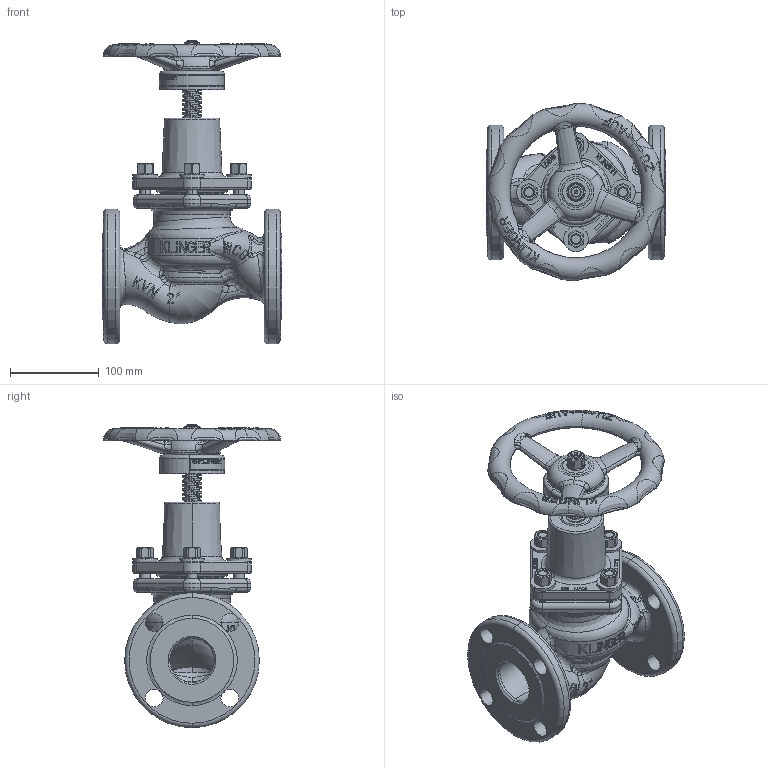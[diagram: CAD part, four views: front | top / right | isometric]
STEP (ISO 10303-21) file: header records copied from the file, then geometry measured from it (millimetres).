
FILE_DESCRIPTION((''),'2;1');
FILE_NAME('KVNFL-2-S-----C150PGG_SW0001','2026-09-28T13:07:11',('jeitlers'),('KLINGER'),'CREO PARAMETRIC BY PTC INC, 2025443','CREO PARAMETRIC BY PTC INC, 2025443','');
FILE_SCHEMA(('CONFIG_CONTROL_DESIGN'));
Products named in the file (1): KVNFL-2-S-----C150PGG_SW0001
Bounding box: 203 x 199.99 x 342.4 mm (x, y, z)
Volume: 1921589.9 mm3; surface area: 385792.6 mm2
Topology: 3 solids, 16 shells, 2933 faces, 7779 edges, 4915 vertices
Faces by surface type: plane 1558, bspline 617, cylinder 386, torus 250, cone 120, sphere 2
Entity records: 212020 total; most frequent: CARTESIAN_POINT 145843, ORIENTED_EDGE 15550, DIRECTION 11198, EDGE_CURVE 7775, VERTEX_POINT 4915, AXIS2_PLACEMENT_3D 3939, VECTOR 3320, LINE 3320
